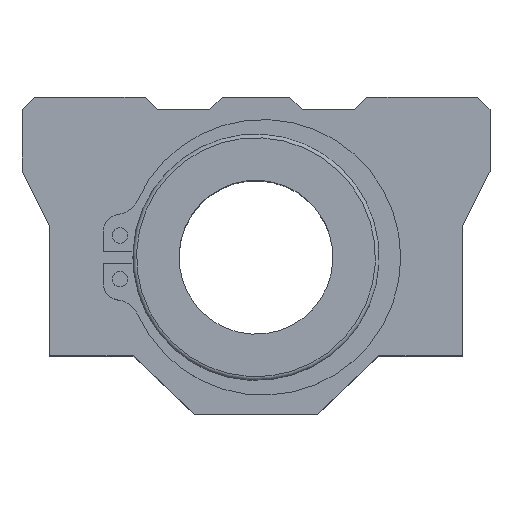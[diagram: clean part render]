
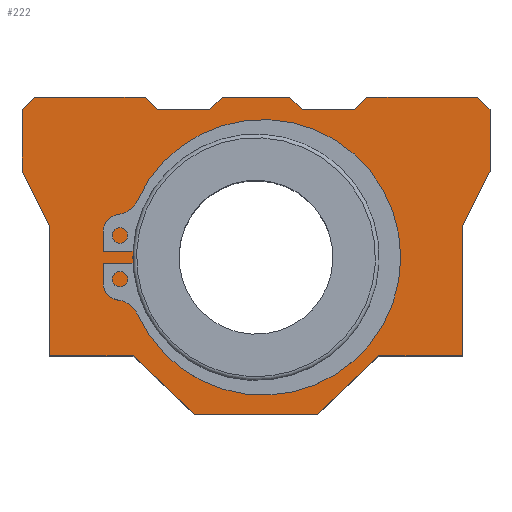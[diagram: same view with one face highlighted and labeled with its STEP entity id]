
A CAD part, top view. The second image highlights one B-rep face of the part: STEP entity #222.
In plain terms, the highlighted planar face has unit normal (0, 0, 1).
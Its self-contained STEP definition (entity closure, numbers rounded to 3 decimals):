
#222=ADVANCED_FACE('',(#298,#299),#300,.T.);
#298=FACE_OUTER_BOUND('',#477,.T.);
#299=FACE_BOUND('',#478,.T.);
#300=PLANE('',#479);
#477=EDGE_LOOP('',(#668,#669,#670,#671,#672,#673,#674,#675,#676,#677,#678,#679,#680,#681,#682,#683,#684,#685,#686,#687,#688,#689));
#478=EDGE_LOOP('',(#690));
#479=AXIS2_PLACEMENT_3D('',#691,#692,#693);
#668=ORIENTED_EDGE('',*,*,#1183,.T.);
#669=ORIENTED_EDGE('',*,*,#1184,.T.);
#670=ORIENTED_EDGE('',*,*,#1185,.T.);
#671=ORIENTED_EDGE('',*,*,#1186,.T.);
#672=ORIENTED_EDGE('',*,*,#1187,.T.);
#673=ORIENTED_EDGE('',*,*,#1188,.T.);
#674=ORIENTED_EDGE('',*,*,#1189,.T.);
#675=ORIENTED_EDGE('',*,*,#1190,.T.);
#676=ORIENTED_EDGE('',*,*,#1191,.T.);
#677=ORIENTED_EDGE('',*,*,#1192,.T.);
#678=ORIENTED_EDGE('',*,*,#1193,.T.);
#679=ORIENTED_EDGE('',*,*,#1194,.T.);
#680=ORIENTED_EDGE('',*,*,#1195,.T.);
#681=ORIENTED_EDGE('',*,*,#1196,.T.);
#682=ORIENTED_EDGE('',*,*,#1197,.T.);
#683=ORIENTED_EDGE('',*,*,#1198,.T.);
#684=ORIENTED_EDGE('',*,*,#1199,.T.);
#685=ORIENTED_EDGE('',*,*,#1200,.T.);
#686=ORIENTED_EDGE('',*,*,#1201,.T.);
#687=ORIENTED_EDGE('',*,*,#1202,.T.);
#688=ORIENTED_EDGE('',*,*,#1181,.T.);
#689=ORIENTED_EDGE('',*,*,#1176,.T.);
#690=ORIENTED_EDGE('',*,*,#1203,.T.);
#691=CARTESIAN_POINT('',(-27.0,35.0,18.7));
#692=DIRECTION('',(0.0,-0.0,1.0));
#693=DIRECTION('',(0.0,1.0,0.0));
#1176=EDGE_CURVE('',#1335,#1333,#1336,.T.);
#1181=EDGE_CURVE('',#1344,#1335,#1345,.T.);
#1183=EDGE_CURVE('',#1333,#1347,#1348,.T.);
#1184=EDGE_CURVE('',#1347,#1349,#1350,.T.);
#1185=EDGE_CURVE('',#1349,#1351,#1352,.T.);
#1186=EDGE_CURVE('',#1351,#1353,#1354,.T.);
#1187=EDGE_CURVE('',#1353,#1355,#1356,.T.);
#1188=EDGE_CURVE('',#1355,#1357,#1358,.T.);
#1189=EDGE_CURVE('',#1357,#1359,#1360,.T.);
#1190=EDGE_CURVE('',#1359,#1361,#1362,.T.);
#1191=EDGE_CURVE('',#1361,#1363,#1364,.T.);
#1192=EDGE_CURVE('',#1363,#1365,#1366,.T.);
#1193=EDGE_CURVE('',#1365,#1367,#1368,.T.);
#1194=EDGE_CURVE('',#1367,#1369,#1370,.T.);
#1195=EDGE_CURVE('',#1369,#1371,#1372,.T.);
#1196=EDGE_CURVE('',#1371,#1373,#1374,.T.);
#1197=EDGE_CURVE('',#1373,#1375,#1376,.T.);
#1198=EDGE_CURVE('',#1375,#1377,#1378,.T.);
#1199=EDGE_CURVE('',#1377,#1379,#1380,.T.);
#1200=EDGE_CURVE('',#1379,#1381,#1382,.T.);
#1201=EDGE_CURVE('',#1381,#1383,#1384,.T.);
#1202=EDGE_CURVE('',#1383,#1344,#1385,.T.);
#1203=EDGE_CURVE('',#1386,#1386,#1387,.F.);
#1333=VERTEX_POINT('',#1604);
#1335=VERTEX_POINT('',#1607);
#1336=LINE('',#1608,#1609);
#1344=VERTEX_POINT('',#1619);
#1345=LINE('',#1620,#1621);
#1347=VERTEX_POINT('',#1624);
#1348=LINE('',#1625,#1626);
#1349=VERTEX_POINT('',#1627);
#1350=LINE('',#1628,#1629);
#1351=VERTEX_POINT('',#1630);
#1352=LINE('',#1631,#1632);
#1353=VERTEX_POINT('',#1633);
#1354=LINE('',#1634,#1635);
#1355=VERTEX_POINT('',#1636);
#1356=LINE('',#1637,#1638);
#1357=VERTEX_POINT('',#1639);
#1358=LINE('',#1640,#1641);
#1359=VERTEX_POINT('',#1642);
#1360=LINE('',#1643,#1644);
#1361=VERTEX_POINT('',#1645);
#1362=LINE('',#1646,#1647);
#1363=VERTEX_POINT('',#1648);
#1364=LINE('',#1649,#1650);
#1365=VERTEX_POINT('',#1651);
#1366=LINE('',#1652,#1653);
#1367=VERTEX_POINT('',#1654);
#1368=LINE('',#1655,#1656);
#1369=VERTEX_POINT('',#1657);
#1370=LINE('',#1658,#1659);
#1371=VERTEX_POINT('',#1660);
#1372=LINE('',#1661,#1662);
#1373=VERTEX_POINT('',#1663);
#1374=LINE('',#1664,#1665);
#1375=VERTEX_POINT('',#1666);
#1376=LINE('',#1667,#1668);
#1377=VERTEX_POINT('',#1669);
#1378=LINE('',#1670,#1671);
#1379=VERTEX_POINT('',#1672);
#1380=LINE('',#1673,#1674);
#1381=VERTEX_POINT('',#1675);
#1382=LINE('',#1676,#1677);
#1383=VERTEX_POINT('',#1678);
#1384=LINE('',#1679,#1680);
#1385=LINE('',#1681,#1682);
#1386=VERTEX_POINT('',#1683);
#1387=CIRCLE('',#1684,20.0);
#1604=CARTESIAN_POINT('',(-16.0,24.0,18.7));
#1607=CARTESIAN_POINT('',(-7.5,24.0,18.7));
#1608=CARTESIAN_POINT('',(-7.5,24.0,18.7));
#1609=VECTOR('',#1974,1.0);
#1619=CARTESIAN_POINT('',(-5.5,26.0,18.7));
#1620=CARTESIAN_POINT('',(-5.5,26.0,18.7));
#1621=VECTOR('',#1983,1.0);
#1624=CARTESIAN_POINT('',(-18.0,26.0,18.7));
#1625=CARTESIAN_POINT('',(-16.0,24.0,18.7));
#1626=VECTOR('',#1985,1.0);
#1627=CARTESIAN_POINT('',(-36.0,26.0,18.7));
#1628=CARTESIAN_POINT('',(-18.0,26.0,18.7));
#1629=VECTOR('',#1986,1.0);
#1630=CARTESIAN_POINT('',(-38.0,24.0,18.7));
#1631=CARTESIAN_POINT('',(-36.0,26.0,18.7));
#1632=VECTOR('',#1987,1.0);
#1633=CARTESIAN_POINT('',(-38.0,14.0,18.7));
#1634=CARTESIAN_POINT('',(-38.0,24.0,18.7));
#1635=VECTOR('',#1988,1.0);
#1636=CARTESIAN_POINT('',(-33.5,5.0,18.7));
#1637=CARTESIAN_POINT('',(-38.0,14.0,18.7));
#1638=VECTOR('',#1989,1.0);
#1639=CARTESIAN_POINT('',(-33.5,-16.0,18.7));
#1640=CARTESIAN_POINT('',(-33.5,5.0,18.7));
#1641=VECTOR('',#1990,1.0);
#1642=CARTESIAN_POINT('',(-19.952,-16.0,18.7));
#1643=CARTESIAN_POINT('',(-33.5,-16.0,18.7));
#1644=VECTOR('',#1991,1.0);
#1645=CARTESIAN_POINT('',(-10.0,-25.5,18.7));
#1646=CARTESIAN_POINT('',(-19.952,-16.0,18.7));
#1647=VECTOR('',#1992,1.0);
#1648=CARTESIAN_POINT('',(10.0,-25.5,18.7));
#1649=CARTESIAN_POINT('',(-10.0,-25.5,18.7));
#1650=VECTOR('',#1993,1.0);
#1651=CARTESIAN_POINT('',(19.952,-16.0,18.7));
#1652=CARTESIAN_POINT('',(10.0,-25.5,18.7));
#1653=VECTOR('',#1994,1.0);
#1654=CARTESIAN_POINT('',(33.5,-16.0,18.7));
#1655=CARTESIAN_POINT('',(19.952,-16.0,18.7));
#1656=VECTOR('',#1995,1.0);
#1657=CARTESIAN_POINT('',(33.5,5.0,18.7));
#1658=CARTESIAN_POINT('',(33.5,-16.0,18.7));
#1659=VECTOR('',#1996,1.0);
#1660=CARTESIAN_POINT('',(38.0,14.0,18.7));
#1661=CARTESIAN_POINT('',(33.5,5.0,18.7));
#1662=VECTOR('',#1997,1.0);
#1663=CARTESIAN_POINT('',(38.0,24.0,18.7));
#1664=CARTESIAN_POINT('',(38.0,14.0,18.7));
#1665=VECTOR('',#1998,1.0);
#1666=CARTESIAN_POINT('',(36.0,26.0,18.7));
#1667=CARTESIAN_POINT('',(38.0,24.0,18.7));
#1668=VECTOR('',#1999,1.0);
#1669=CARTESIAN_POINT('',(18.0,26.0,18.7));
#1670=CARTESIAN_POINT('',(36.0,26.0,18.7));
#1671=VECTOR('',#2000,1.0);
#1672=CARTESIAN_POINT('',(16.0,24.0,18.7));
#1673=CARTESIAN_POINT('',(18.0,26.0,18.7));
#1674=VECTOR('',#2001,1.0);
#1675=CARTESIAN_POINT('',(7.5,24.0,18.7));
#1676=CARTESIAN_POINT('',(16.0,24.0,18.7));
#1677=VECTOR('',#2002,1.0);
#1678=CARTESIAN_POINT('',(5.5,26.0,18.7));
#1679=CARTESIAN_POINT('',(7.5,24.0,18.7));
#1680=VECTOR('',#2003,1.0);
#1681=CARTESIAN_POINT('',(5.5,26.0,18.7));
#1682=VECTOR('',#2004,1.0);
#1683=CARTESIAN_POINT('',(20.0,0.,18.7));
#1684=AXIS2_PLACEMENT_3D('',#2005,#2006,#2007);
#1974=DIRECTION('',(-1.0,0.0,0.0));
#1983=DIRECTION('',(-0.707,-0.707,0.0));
#1985=DIRECTION('',(-0.707,0.707,0.0));
#1986=DIRECTION('',(-1.0,0.0,0.0));
#1987=DIRECTION('',(-0.707,-0.707,0.0));
#1988=DIRECTION('',(0.0,-1.0,0.0));
#1989=DIRECTION('',(0.447,-0.894,0.0));
#1990=DIRECTION('',(0.0,-1.0,0.0));
#1991=DIRECTION('',(1.0,0.0,0.0));
#1992=DIRECTION('',(0.723,-0.69,0.0));
#1993=DIRECTION('',(1.0,0.0,0.0));
#1994=DIRECTION('',(0.723,0.69,0.0));
#1995=DIRECTION('',(1.0,0.0,0.0));
#1996=DIRECTION('',(0.0,1.0,0.0));
#1997=DIRECTION('',(0.447,0.894,0.0));
#1998=DIRECTION('',(0.0,1.0,0.0));
#1999=DIRECTION('',(-0.707,0.707,0.0));
#2000=DIRECTION('',(-1.0,0.0,0.0));
#2001=DIRECTION('',(-0.707,-0.707,0.0));
#2002=DIRECTION('',(-1.0,0.0,0.0));
#2003=DIRECTION('',(-0.707,0.707,0.0));
#2004=DIRECTION('',(-1.0,0.0,0.0));
#2005=CARTESIAN_POINT('',(0.0,0.0,18.7));
#2006=DIRECTION('',(0.0,0.0,1.0));
#2007=DIRECTION('',(1.0,0.0,0.0));
